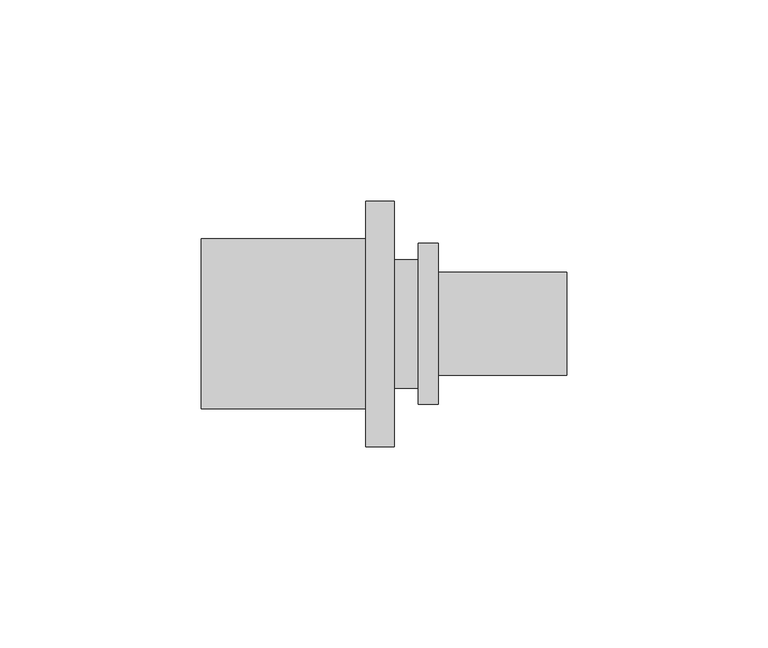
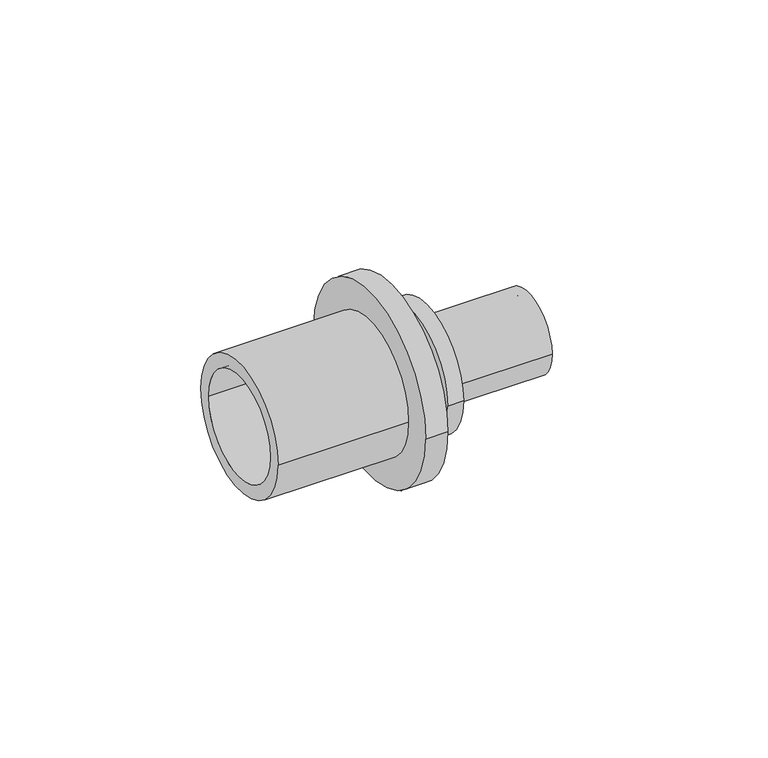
"""IFC4 building model written with IfcOpenShell, lengths in millimetres: pipe fitting geometry, RAUTITAN_Transition_RX+ stabil : RTI RX+ stabil Tr DE."""

from ifc_helpers import new_model, si_unit, frame, origin, place, context, project, spatial, polyline, circle_curve, source, transform, mapped, element, save
from ifc_brep_helpers import plane_surface, cylinder_surface, revolved_surface, advanced_brep


def pipe_fitting_b47dd0d5(model_context):
    return source(origin(), model_context, "Body", "AdvancedBrep", [
        advanced_brep(
        [(-51.0, 16.75, 0.0), (-51.0, -16.75, 0.0), (-10.0, -16.75, 0.0), (-10.0, 16.75, 0.0), (3.0, 16.0, 0.0), (3.0, -16.0, 0.0), (-3.0, -16.0, 0.0), (-3.0, 16.0, 0.0), (8.0, 20.0, 0.0), (8.0, -20.0, 0.0), (3.0, -20.0, 0.0), (3.0, 20.0, 0.0), (40.0, 12.8, 0.0), (40.0, -12.8, 0.0), (8.0, -12.8, 0.0), (8.0, 12.8, 0.0), (-3.25, 10.0, 0.0), (-3.25, -10.0, 0.0), (40.0, -10.0, 0.0), (40.0, 10.0, 0.0), (-3.0, 30.55, 0.0), (-3.0, -30.55, 0.0), (-10.0, 21.15, 0.0), (-10.0, -21.15, 0.0), (-51.0, -21.15, 0.0), (-51.0, 21.15, 0.0), (-10.0, -30.55, 0.0), (-10.0, 30.55, 0.0)],
        [
            (0, 1, circle_curve(frame((-51.0, 0.0, 0.0), z_axis=(-1.0, 0.0, 0.0), x_axis=(0.0, -1.0, 0.0)), 16.75)),
            (1, 2),
            (2, 3, circle_curve(frame((-10.0, 0.0, 0.0), z_axis=(1.0, 0.0, 0.0), x_axis=(0.0, -1.0, 0.0)), 16.75)),
            (3, 0),
            (4, 5, circle_curve(frame((3.0, 0.0, 0.0), z_axis=(-1.0, 0.0, 0.0), x_axis=(0.0, -1.0, 0.0)), 16.0)),
            (5, 6),
            (6, 7, circle_curve(frame((-3.0, 0.0, 0.0), z_axis=(1.0, 0.0, 0.0), x_axis=(0.0, -1.0, 0.0)), 16.0)),
            (7, 4),
            (8, 9, circle_curve(frame((8.0, 0.0, 0.0), z_axis=(-1.0, 0.0, 0.0), x_axis=(0.0, -1.0, 0.0)), 20.0)),
            (9, 10),
            (10, 11, circle_curve(frame((3.0, 0.0, 0.0), z_axis=(1.0, 0.0, 0.0), x_axis=(0.0, -1.0, 0.0)), 20.0)),
            (11, 8),
            (12, 13, circle_curve(frame((40.0, 0.0, 0.0), z_axis=(-1.0, 0.0, 0.0), x_axis=(0.0, -1.0, 0.0)), 12.8)),
            (13, 14),
            (14, 15, circle_curve(frame((8.0, 0.0, 0.0), z_axis=(1.0, 0.0, 0.0), x_axis=(0.0, -1.0, 0.0)), 12.8)),
            (15, 12),
            (16, 17, circle_curve(frame((-3.25, 0.0, 0.0), z_axis=(-1.0, 0.0, 0.0), x_axis=(0.0, -1.0, 0.0)), 10.0)),
            (17, 18),
            (18, 19, circle_curve(frame((40.0, 0.0, 0.0), z_axis=(1.0, 0.0, 0.0), x_axis=(0.0, -1.0, 0.0)), 10.0)),
            (19, 16),
            (2, 17),
            (16, 3),
            (1, 0, circle_curve(frame((-51.0, 0.0, 0.0), z_axis=(-1.0, 0.0, 0.0), x_axis=(0.0, 1.0, 0.0)), 16.75)),
            (3, 2, circle_curve(frame((-10.0, 0.0, 0.0), z_axis=(1.0, 0.0, 0.0), x_axis=(0.0, 1.0, 0.0)), 16.75)),
            (20, 21, circle_curve(frame((-3.0, 0.0, 0.0), z_axis=(1.0, 0.0, 0.0), x_axis=(0.0, 1.0, 0.0)), 30.55)),
            (21, 20, circle_curve(frame((-3.0, 0.0, 0.0), z_axis=(1.0, 0.0, 0.0), x_axis=(0.0, -1.0, 0.0)), 30.55)),
            (6, 7, circle_curve(frame((-3.0, 0.0, 0.0), z_axis=(-1.0, 0.0, 0.0), x_axis=(0.0, 1.0, 0.0)), 16.0)),
            (5, 4, circle_curve(frame((3.0, 0.0, 0.0), z_axis=(-1.0, 0.0, 0.0), x_axis=(0.0, 1.0, 0.0)), 16.0)),
            (10, 11, circle_curve(frame((3.0, 0.0, 0.0), z_axis=(-1.0, 0.0, 0.0), x_axis=(0.0, 1.0, 0.0)), 20.0)),
            (9, 8, circle_curve(frame((8.0, 0.0, 0.0), z_axis=(-1.0, 0.0, 0.0), x_axis=(0.0, 1.0, 0.0)), 20.0)),
            (14, 15, circle_curve(frame((8.0, 0.0, 0.0), z_axis=(-1.0, 0.0, 0.0), x_axis=(0.0, 1.0, 0.0)), 12.8)),
            (13, 12, circle_curve(frame((40.0, 0.0, 0.0), z_axis=(-1.0, 0.0, 0.0), x_axis=(0.0, 1.0, 0.0)), 12.8)),
            (18, 19, circle_curve(frame((40.0, 0.0, 0.0), z_axis=(-1.0, 0.0, 0.0), x_axis=(0.0, 1.0, 0.0)), 10.0)),
            (17, 16, circle_curve(frame((-3.25, 0.0, 0.0), z_axis=(-1.0, 0.0, 0.0), x_axis=(0.0, 1.0, 0.0)), 10.0)),
            (22, 23, circle_curve(frame((-10.0, 0.0, 0.0), z_axis=(-1.0, 0.0, 0.0), x_axis=(0.0, -1.0, 0.0)), 21.15)),
            (23, 24),
            (24, 25, circle_curve(frame((-51.0, 0.0, 0.0), z_axis=(1.0, 0.0, 0.0), x_axis=(0.0, -1.0, 0.0)), 21.15)),
            (25, 22),
            (21, 26),
            (26, 27, circle_curve(frame((-10.0, 0.0, 0.0), z_axis=(1.0, 0.0, 0.0), x_axis=(0.0, -1.0, 0.0)), 30.55)),
            (27, 20),
            (24, 25, circle_curve(frame((-51.0, 0.0, 0.0), z_axis=(-1.0, 0.0, 0.0), x_axis=(0.0, 1.0, 0.0)), 21.15)),
            (23, 22, circle_curve(frame((-10.0, 0.0, 0.0), z_axis=(-1.0, 0.0, 0.0), x_axis=(0.0, 1.0, 0.0)), 21.15)),
            (26, 27, circle_curve(frame((-10.0, 0.0, 0.0), z_axis=(-1.0, 0.0, 0.0), x_axis=(0.0, 1.0, 0.0)), 30.55)),
        ],
        [
            revolved_surface(polyline([(-10.0, -16.75, 0.0), (-51.0, -16.75, 0.0)]), (0.0, 0.0, 0.0), (1.0, 0.0, 0.0)),
            cylinder_surface(frame((0.0, 0.0, 0.0), z_axis=(1.0, 0.0, 0.0), x_axis=(0.0, -1.0, 0.0)), 16.0),
            cylinder_surface(frame((0.0, 0.0, 0.0), z_axis=(1.0, 0.0, 0.0), x_axis=(0.0, -1.0, 0.0)), 20.0),
            cylinder_surface(frame((0.0, 0.0, 0.0), z_axis=(1.0, 0.0, 0.0), x_axis=(0.0, -1.0, 0.0)), 12.8),
            revolved_surface(polyline([(40.0, -10.0, 0.0), (-3.25, -10.0, 0.0)]), (0.0, 0.0, 0.0), (1.0, 0.0, 0.0)),
            revolved_surface(polyline([(-3.25, -10.0, 0.0), (-10.0, -16.75, 0.0)]), (0.0, 0.0, 0.0), (1.0, 0.0, 0.0)),
            revolved_surface(polyline([(-10.0, 16.75, 0.0), (-51.0, 16.75, 0.0)]), (0.0, 0.0, 0.0), (1.0, 0.0, 0.0)),
            plane_surface(frame((-3.0, 0.0, 0.0), z_axis=(1.0, 0.0, 0.0), x_axis=(0.0, 1.0, 0.0))),
            cylinder_surface(frame((0.0, 0.0, 0.0), z_axis=(1.0, 0.0, 0.0), x_axis=(0.0, 1.0, 0.0)), 16.0),
            plane_surface(frame((3.0, 0.0, 0.0), z_axis=(-1.0, 0.0, 0.0), x_axis=(0.0, 1.0, 0.0))),
            cylinder_surface(frame((0.0, 0.0, 0.0), z_axis=(1.0, 0.0, 0.0), x_axis=(0.0, 1.0, 0.0)), 20.0),
            plane_surface(frame((8.0, 0.0, 0.0), z_axis=(1.0, 0.0, 0.0), x_axis=(0.0, 1.0, 0.0))),
            cylinder_surface(frame((0.0, 0.0, 0.0), z_axis=(1.0, 0.0, 0.0), x_axis=(0.0, 1.0, 0.0)), 12.8),
            plane_surface(frame((40.0, 0.0, 0.0), z_axis=(1.0, 0.0, 0.0), x_axis=(0.0, 1.0, 0.0))),
            revolved_surface(polyline([(40.0, 10.0, 0.0), (-3.25, 10.0, 0.0)]), (0.0, 0.0, 0.0), (1.0, 0.0, 0.0)),
            revolved_surface(polyline([(-3.25, 10.0, 0.0), (-10.0, 16.75, 0.0)]), (0.0, 0.0, 0.0), (1.0, 0.0, 0.0)),
            cylinder_surface(frame((0.0, 0.0, 0.0), z_axis=(1.0, 0.0, 0.0), x_axis=(0.0, -1.0, 0.0)), 21.15),
            cylinder_surface(frame((0.0, 0.0, 0.0), z_axis=(1.0, 0.0, 0.0), x_axis=(0.0, -1.0, 0.0)), 30.55),
            plane_surface(frame((-51.0, 0.0, 0.0), z_axis=(-1.0, 0.0, 0.0), x_axis=(0.0, 1.0, 0.0))),
            cylinder_surface(frame((0.0, 0.0, 0.0), z_axis=(1.0, 0.0, 0.0), x_axis=(0.0, 1.0, 0.0)), 21.15),
            plane_surface(frame((-10.0, 0.0, 0.0), z_axis=(-1.0, 0.0, 0.0), x_axis=(0.0, 1.0, 0.0))),
            cylinder_surface(frame((0.0, 0.0, 0.0), z_axis=(1.0, 0.0, 0.0), x_axis=(0.0, 1.0, 0.0)), 30.55),
        ],
        [
            (0, [[1, 2, 3, 4]]),
            (1, [[5, 6, 7, 8]]),
            (2, [[9, 10, 11, 12]]),
            (3, [[13, 14, 15, 16]]),
            (4, [[17, 18, 19, 20]]),
            (5, [[-3, 21, -17, 22]]),
            (6, [[23, -4, 24, -2]]),
            (7, [[25, 26], [27, -7]]),
            (8, [[28, -8, -27, -6]]),
            (9, [[29, -11], [-28, -5]]),
            (10, [[30, -12, -29, -10]]),
            (11, [[-30, -9], [31, -15]]),
            (12, [[32, -16, -31, -14]]),
            (13, [[-32, -13], [33, -19]]),
            (14, [[34, -20, -33, -18]]),
            (15, [[-24, -22, -34, -21]]),
            (16, [[35, 36, 37, 38]]),
            (17, [[-26, 39, 40, 41]]),
            (18, [[42, -37], [-23, -1]]),
            (19, [[43, -38, -42, -36]]),
            (20, [[44, -40], [-43, -35]]),
            (21, [[-25, -41, -44, -39]]),
        ],
    ),
    ])


if __name__ == "__main__":
    model = new_model("IFC4")
    model_context = context("Model", 3, world=origin())
    ifc_project = project(units=[si_unit("LENGTHUNIT", "METRE", prefix="MILLI")], contexts=[model_context])
    site = spatial("IfcSite", under=ifc_project)
    building = spatial("IfcBuilding", under=site)
    placement = place(None, origin())
    pipe_fitting_shape = pipe_fitting_b47dd0d5(model_context)
    element("IfcPipeFitting", 1, ObjectType="RAUTITAN_Transition_RX+ stabil : RTI RX+ stabil Tr DE", at=placement, inside=building, context=model_context, shape_type="MappedRepresentation", body=[
        mapped(pipe_fitting_shape, transform((0.0, 0.0, 0.0), x_axis=(1.0, 0.0, 0.0), y_axis=(0.0, 1.0, 0.0), z_axis=(0.0, 0.0, 1.0))),
    ])
    save(model, "model.ifc")
